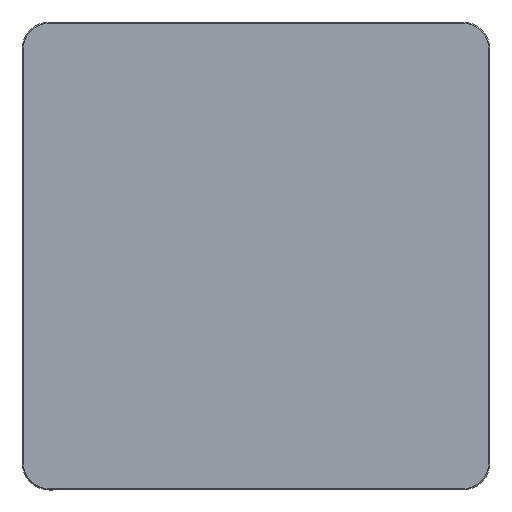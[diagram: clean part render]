
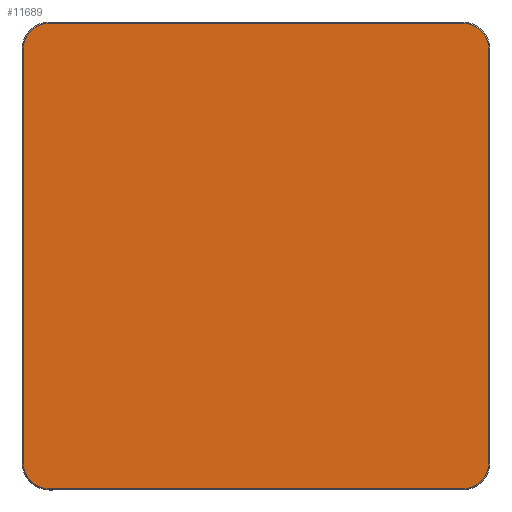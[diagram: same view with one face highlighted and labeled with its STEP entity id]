
A CAD part, top view. The second image highlights one B-rep face of the part: STEP entity #11689.
In plain terms, the highlighted planar face has unit normal (0, 0, 1).
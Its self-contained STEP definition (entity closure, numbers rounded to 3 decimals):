
#11614=CARTESIAN_POINT('',(0.,0.,20.));
#11615=DIRECTION('',(1.,0.,0.));
#11616=DIRECTION('',(0.,0.,1.));
#11617=AXIS2_PLACEMENT_3D('',#11614,#11616,#11615);
#11618=PLANE('',#11617);
#11619=CARTESIAN_POINT('',(-265.,-298.5,20.));
#11620=VERTEX_POINT('',#11619);
#11621=CARTESIAN_POINT('',(265.,-298.5,20.));
#11622=VERTEX_POINT('',#11621);
#11623=CARTESIAN_POINT('',(-265.,-298.5,20.));
#11624=DIRECTION('',(1.,0.,0.));
#11625=VECTOR('',#11624,530.);
#11626=LINE('',#11623,#11625);
#11627=EDGE_CURVE('',#11620,#11622,#11626,.T.);
#11628=ORIENTED_EDGE('E105',*,*,#11627,.T.);
#11629=CARTESIAN_POINT('',(298.5,-265.,20.));
#11630=VERTEX_POINT('',#11629);
#11631=CARTESIAN_POINT('',(265.,-265.,20.));
#11632=DIRECTION('',(0.,-1.,0.));
#11633=DIRECTION('',(0.,0.,1.));
#11634=AXIS2_PLACEMENT_3D('',#11631,#11633,#11632);
#11635=CIRCLE('',#11634,33.5);
#11636=EDGE_CURVE('',#11622,#11630,#11635,.T.);
#11637=ORIENTED_EDGE('E107',*,*,#11636,.T.);
#11638=CARTESIAN_POINT('',(298.5,265.,20.));
#11639=VERTEX_POINT('',#11638);
#11640=CARTESIAN_POINT('',(298.5,-265.,20.));
#11641=DIRECTION('',(0.,1.,0.));
#11642=VECTOR('',#11641,530.);
#11643=LINE('',#11640,#11642);
#11644=EDGE_CURVE('',#11630,#11639,#11643,.T.);
#11645=ORIENTED_EDGE('E109',*,*,#11644,.T.);
#11646=CARTESIAN_POINT('',(265.,298.5,20.));
#11647=VERTEX_POINT('',#11646);
#11648=CARTESIAN_POINT('',(265.,265.,20.));
#11649=DIRECTION('',(1.,0.,0.));
#11650=DIRECTION('',(0.,0.,1.));
#11651=AXIS2_PLACEMENT_3D('',#11648,#11650,#11649);
#11652=CIRCLE('',#11651,33.5);
#11653=EDGE_CURVE('',#11639,#11647,#11652,.T.);
#11654=ORIENTED_EDGE('E111',*,*,#11653,.T.);
#11655=CARTESIAN_POINT('',(-265.,298.5,20.));
#11656=VERTEX_POINT('',#11655);
#11657=CARTESIAN_POINT('',(265.,298.5,20.));
#11658=DIRECTION('',(-1.,0.,0.));
#11659=VECTOR('',#11658,530.);
#11660=LINE('',#11657,#11659);
#11661=EDGE_CURVE('',#11647,#11656,#11660,.T.);
#11662=ORIENTED_EDGE('E113',*,*,#11661,.T.);
#11663=CARTESIAN_POINT('',(-298.5,265.,20.));
#11664=VERTEX_POINT('',#11663);
#11665=CARTESIAN_POINT('',(-265.,265.,20.));
#11666=DIRECTION('',(0.,1.,0.));
#11667=DIRECTION('',(0.,0.,1.));
#11668=AXIS2_PLACEMENT_3D('',#11665,#11667,#11666);
#11669=CIRCLE('',#11668,33.5);
#11670=EDGE_CURVE('',#11656,#11664,#11669,.T.);
#11671=ORIENTED_EDGE('E115',*,*,#11670,.T.);
#11672=CARTESIAN_POINT('',(-298.5,-265.,20.));
#11673=VERTEX_POINT('',#11672);
#11674=CARTESIAN_POINT('',(-298.5,265.,20.));
#11675=DIRECTION('',(0.,-1.,0.));
#11676=VECTOR('',#11675,530.);
#11677=LINE('',#11674,#11676);
#11678=EDGE_CURVE('',#11664,#11673,#11677,.T.);
#11679=ORIENTED_EDGE('E117',*,*,#11678,.T.);
#11680=CARTESIAN_POINT('',(-265.,-265.,20.));
#11681=DIRECTION('',(-1.,0.,0.));
#11682=DIRECTION('',(0.,0.,1.));
#11683=AXIS2_PLACEMENT_3D('',#11680,#11682,#11681);
#11684=CIRCLE('',#11683,33.5);
#11685=EDGE_CURVE('',#11673,#11620,#11684,.T.);
#11686=ORIENTED_EDGE('E119',*,*,#11685,.T.);
#11687=EDGE_LOOP('',(#11628,#11637,#11645,#11654,#11662,#11671,#11679,#11686));
#11688=FACE_OUTER_BOUND('',#11687,.T.);
#11689=ADVANCED_FACE('F2',(#11688),#11618,.T.);
